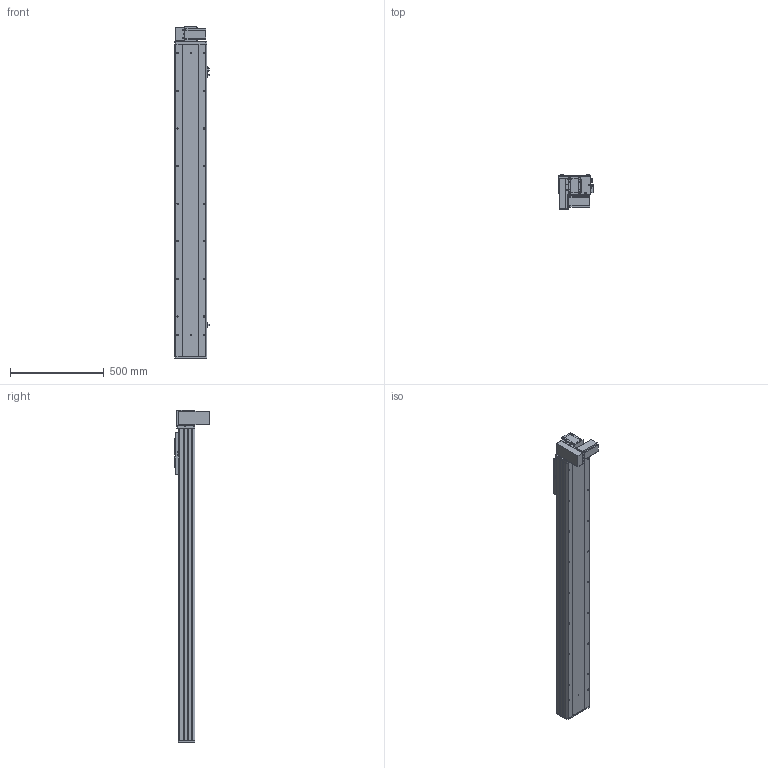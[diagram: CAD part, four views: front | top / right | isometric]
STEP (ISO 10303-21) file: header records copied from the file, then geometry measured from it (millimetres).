
FILE_DESCRIPTION (( 'STEP AP203' ), '1' );
FILE_NAME ('Y170CB-D105-S1350-BM-P400W.STEP', '2020-02-20T06:44:20', ( '微软用户' ), ( '微软中国' ), 'SwSTEP 2.0', 'SolidWorks 2017', '' );
FILE_SCHEMA (( 'CONFIG_CONTROL_DESIGN' ));
Length unit declared in the file: millimetre
Products named in the file (18): Y170CB-D105-S1350-BM-P400W; 0C--雄赽釱俋欶-170; 0B-萇儂楊擘啣; 70CB-詩湍--; san松下电机400不带刹车----; Y100-135俋离換覜ん--; 70CB-掛极-; Y170CB-陔俋离換覜結え---; --70CB --喘謫眊楊擘啣-; Y1埴倛裔; 70CB-耜裔啣-; 17B-耜蚾蟀諉啣----; 70C--詩湍揤踡え-; 00B-俋欶BM--163; 70CB--耜裔; 70B喘謫眊----; 70C-雄赽釱-奻-; B-源倛裔啣
Assembly tree (21 placements, depth 2):
  Y170CB-D105-S1350-BM-P400W
    B-源倛裔啣
    0B-萇儂楊擘啣
    san松下电机400不带刹车----
    70CB-掛极-
    --70CB --喘謫眊楊擘啣-
    70CB-耜裔啣-  x2
    70C--詩湍揤踡え-  x2
    70CB--耜裔
    70C-雄赽釱-奻-
    0C--雄赽釱俋欶-170
    70CB-詩湍--
    Y100-135俋离換覜ん--  x3
    Y170CB-陔俋离換覜結え---
    Y1埴倛裔
    17B-耜蚾蟀諉啣----
    00B-俋欶BM--163
    70B喘謫眊----
Bounding box: 183.5 x 184 x 1766 mm (x, y, z)
Volume: 7917309.2 mm3; surface area: 2845655.6 mm2
Topology: 21 solids, 21 shells, 1023 faces, 2741 edges, 1818 vertices
Faces by surface type: cylinder 537, plane 462, cone 24
Entity records: 32620 total; most frequent: CARTESIAN_POINT 5976, DIRECTION 5306, ORIENTED_EDGE 4964, EDGE_CURVE 2482, AXIS2_PLACEMENT_3D 1948, VERTEX_POINT 1648, VECTOR 1410, LINE 1410
